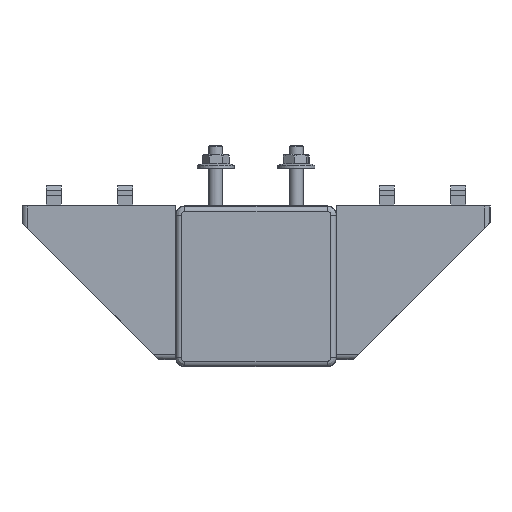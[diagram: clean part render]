
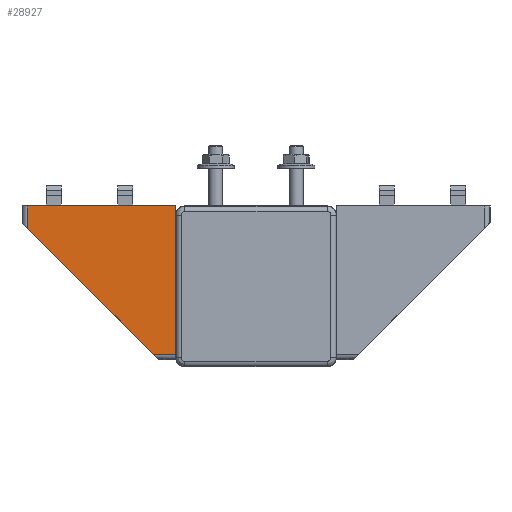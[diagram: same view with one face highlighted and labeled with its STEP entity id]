
A CAD part, left-side view. The second image highlights one B-rep face of the part: STEP entity #28927.
In plain terms, the highlighted planar face has unit normal (-1, 0, 0).
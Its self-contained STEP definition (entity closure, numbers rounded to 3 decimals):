
#403 = PLANE ( 'NONE',  #34972 ) ;
#4472 = CARTESIAN_POINT ( 'NONE',  ( -442.75, 45., 45. ) ) ;
#7432 = LINE ( 'NONE', #24004, #38251 ) ;
#9574 = VECTOR ( 'NONE', #22398, 1000. ) ;
#10589 = CARTESIAN_POINT ( 'NONE',  ( -442.75, 45., -38. ) ) ;
#13168 = FACE_OUTER_BOUND ( 'NONE', #53668, .T. ) ;
#14650 = DIRECTION ( 'NONE',  ( 0., -0.707, -0.707 ) ) ;
#15327 = EDGE_CURVE ( 'NONE', #30809, #29459, #7432, .T. ) ;
#15637 = CARTESIAN_POINT ( 'NONE',  ( -442.75, 57.5, -38. ) ) ;
#16736 = CARTESIAN_POINT ( 'NONE',  ( -442.75, 45., 45. ) ) ;
#17993 = EDGE_CURVE ( 'NONE', #41884, #44093, #47802, .T. ) ;
#20038 = VECTOR ( 'NONE', #46329, 1000. ) ;
#22398 = DIRECTION ( 'NONE',  ( 0., 0., -1. ) ) ;
#24004 = CARTESIAN_POINT ( 'NONE',  ( -442.75, 128., 45. ) ) ;
#24080 = EDGE_CURVE ( 'NONE', #53276, #44093, #43315, .T. ) ;
#25670 = ORIENTED_EDGE ( 'NONE', *, *, #17993, .T. ) ;
#27529 = DIRECTION ( 'NONE',  ( 0., 0., -1. ) ) ;
#28035 = VECTOR ( 'NONE', #43746, 1000. ) ;
#28423 = ORIENTED_EDGE ( 'NONE', *, *, #15327, .T. ) ;
#28916 = ORIENTED_EDGE ( 'NONE', *, *, #42490, .T. ) ;
#28927 = ADVANCED_FACE ( 'NONE', ( #13168 ), #403, .T. ) ;
#29459 = VERTEX_POINT ( 'NONE', #33375 ) ;
#30809 = VERTEX_POINT ( 'NONE', #49910 ) ;
#32342 = EDGE_CURVE ( 'NONE', #30809, #53276, #42511, .T. ) ;
#33375 = CARTESIAN_POINT ( 'NONE',  ( -442.75, 128., 32.5 ) ) ;
#34331 = DIRECTION ( 'NONE',  ( -1., 0., 0. ) ) ;
#34972 = AXIS2_PLACEMENT_3D ( 'NONE', #4472, #34331, #46561 ) ;
#35974 = CARTESIAN_POINT ( 'NONE',  ( -442.75, 45., -38. ) ) ;
#37702 = ORIENTED_EDGE ( 'NONE', *, *, #32342, .F. ) ;
#38181 = CARTESIAN_POINT ( 'NONE',  ( -442.75, 45., -41. ) ) ;
#38251 = VECTOR ( 'NONE', #27529, 1000. ) ;
#40062 = ORIENTED_EDGE ( 'NONE', *, *, #24080, .F. ) ;
#41884 = VERTEX_POINT ( 'NONE', #15637 ) ;
#42071 = CARTESIAN_POINT ( 'NONE',  ( -442.75, 45., 45. ) ) ;
#42490 = EDGE_CURVE ( 'NONE', #29459, #41884, #44521, .T. ) ;
#42511 = LINE ( 'NONE', #16736, #20038 ) ;
#43315 = LINE ( 'NONE', #38181, #9574 ) ;
#43746 = DIRECTION ( 'NONE',  ( 0., -1., 0. ) ) ;
#44093 = VERTEX_POINT ( 'NONE', #35974 ) ;
#44521 = LINE ( 'NONE', #47781, #51973 ) ;
#46329 = DIRECTION ( 'NONE',  ( 0., -1., 0. ) ) ;
#46561 = DIRECTION ( 'NONE',  ( 0., 0., -1. ) ) ;
#47781 = CARTESIAN_POINT ( 'NONE',  ( -442.75, 128., 32.5 ) ) ;
#47802 = LINE ( 'NONE', #10589, #28035 ) ;
#49910 = CARTESIAN_POINT ( 'NONE',  ( -442.75, 128., 45. ) ) ;
#51973 = VECTOR ( 'NONE', #14650, 1000. ) ;
#53276 = VERTEX_POINT ( 'NONE', #42071 ) ;
#53668 = EDGE_LOOP ( 'NONE', ( #37702, #28423, #28916, #25670, #40062 ) ) ;
